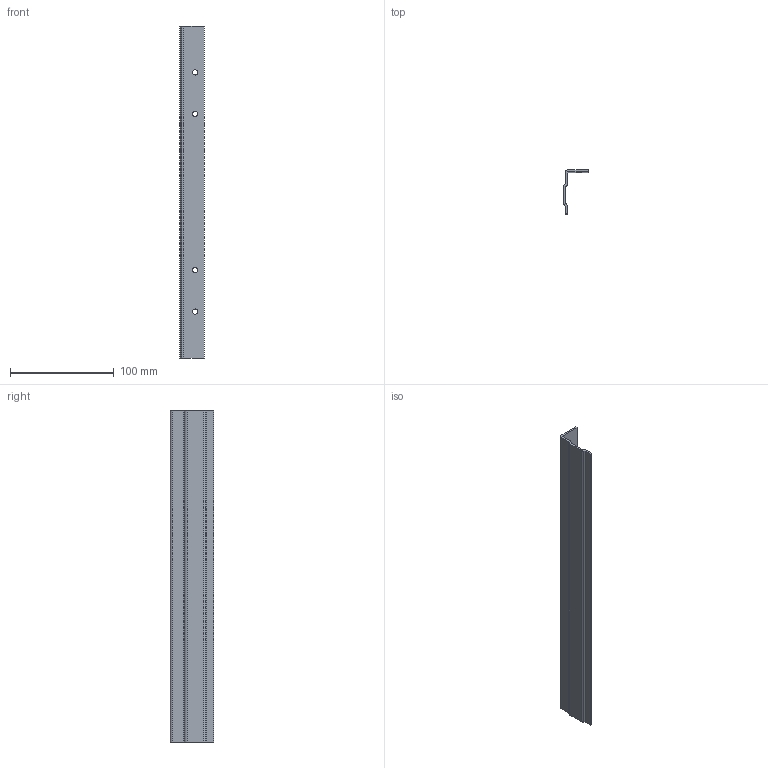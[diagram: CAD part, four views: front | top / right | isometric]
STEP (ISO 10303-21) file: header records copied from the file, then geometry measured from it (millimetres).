
FILE_DESCRIPTION (( 'STEP AP214' ), '1' );
FILE_NAME ('53254.STEP', '2021-08-11T05:48:33', ( '' ), ( '' ), 'SwSTEP 2.0', 'SolidWorks 2017', '' );
FILE_SCHEMA (( 'AUTOMOTIVE_DESIGN' ));
Length unit declared in the file: millimetre
Products named in the file (2): 53254
Bounding box: 24 x 42 x 320 mm (x, y, z)
Volume: 39905.7 mm3; surface area: 41716.8 mm2
Topology: 1 solids, 1 shells, 27 faces, 79 edges, 54 vertices
Faces by surface type: plane 16, cylinder 11
Full cylindrical faces by diameter (mm): 5 x4
Entity records: 916 total; most frequent: DIRECTION 151, CARTESIAN_POINT 150, ORIENTED_EDGE 142, EDGE_CURVE 71, AXIS2_PLACEMENT_3D 51, VERTEX_POINT 50, VECTOR 49, LINE 49
